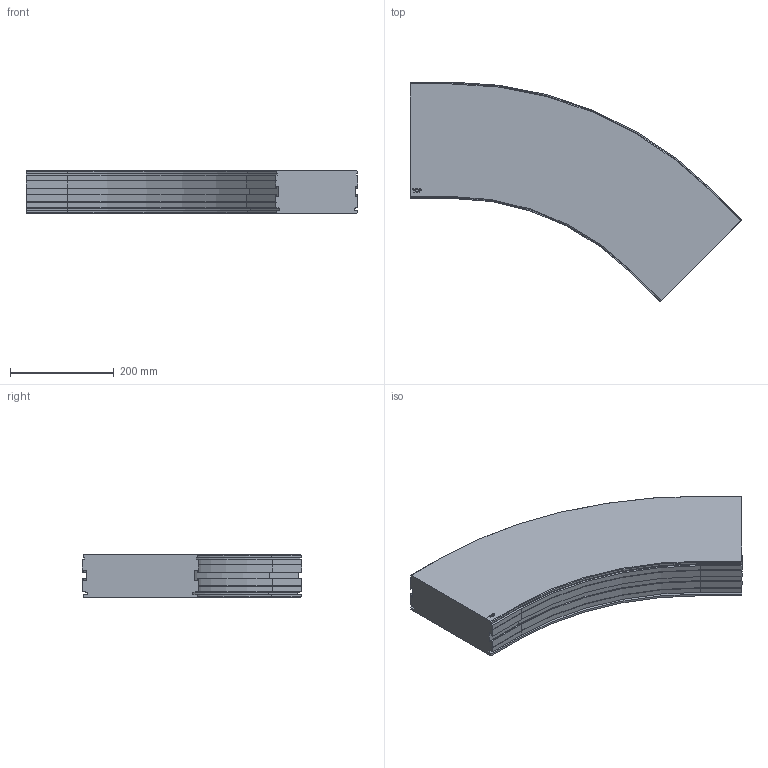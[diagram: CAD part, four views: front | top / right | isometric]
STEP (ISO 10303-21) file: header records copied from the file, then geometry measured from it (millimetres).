
FILE_DESCRIPTION((''),'2;1');
FILE_NAME('C:\Vault Klient\Projekt\Koncept konstruktion\Serie 220 Balk\220-5350.stp','2009-11-27T14:53:57',('Mathias'),(''),'Autodesk Inventor 2010','Autodesk Inventor 2010','');
FILE_SCHEMA(('AUTOMOTIVE_DESIGN { 1 0 10303 214 1 1 1 1 }'));
Length unit declared in the file: millimetre
Products named in the file (1): 220-5350
Bounding box: 640.03 x 423.5 x 81.5 mm (x, y, z)
Volume: 11234647.2 mm3; surface area: 491126.4 mm2
Topology: 1 solids, 1 shells, 165 faces, 442 edges, 284 vertices
Faces by surface type: plane 115, cylinder 24, bspline 14, cone 12
Entity records: 5279 total; most frequent: CARTESIAN_POINT 1134, ORIENTED_EDGE 884, DIRECTION 774, EDGE_CURVE 442, VECTOR 358, LINE 358, VERTEX_POINT 284, AXIS2_PLACEMENT_3D 208
